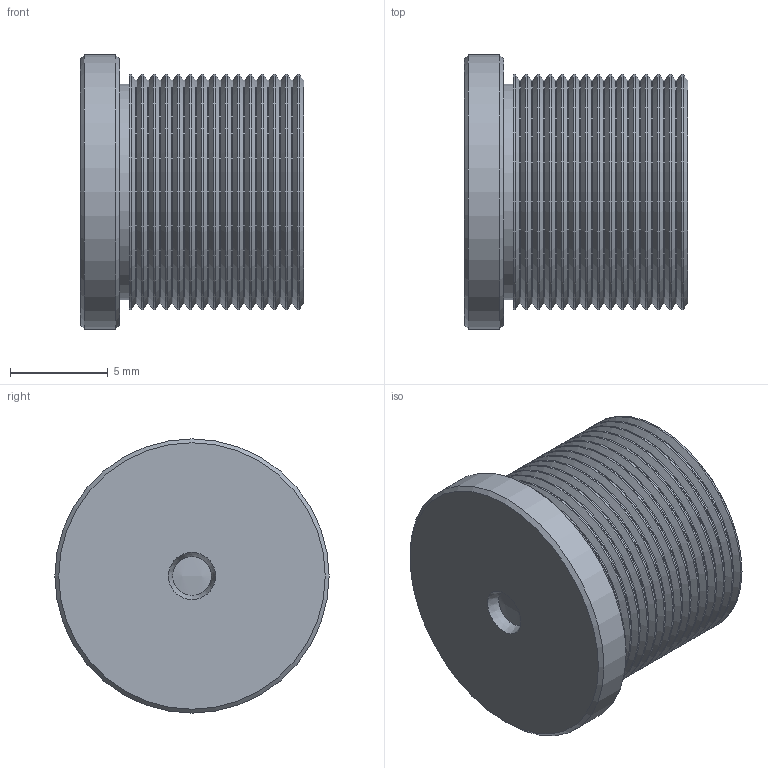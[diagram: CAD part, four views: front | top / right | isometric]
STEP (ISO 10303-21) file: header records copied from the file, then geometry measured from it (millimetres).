
FILE_DESCRIPTION (( 'STEP AP214' ), '1' );
FILE_NAME ('AD2121C.STEP', '2025-08-20T09:21:05', ( '' ), ( '' ), 'SwSTEP 2.0', 'SolidWorks 2023', '' );
FILE_SCHEMA (( 'AUTOMOTIVE_DESIGN' ));
Length unit declared in the file: millimetre
Products named in the file (1): AD2121C
Bounding box: 11.39 x 14 x 14 mm (x, y, z)
Volume: 1309.2 mm3; surface area: 917.5 mm2
Topology: 1 solids, 1 shells, 68 faces, 130 edges, 67 vertices
Faces by surface type: cone 32, cylinder 31, plane 4, sphere 1
Full cylindrical faces by diameter (mm): 11 x1, 11.4 x14, 12 x15, 14 x1
Entity records: 1377 total; most frequent: DIRECTION 272, CARTESIAN_POINT 203, AXIS2_PLACEMENT_3D 136, EDGE_LOOP 134, ORIENTED_EDGE 134, FACE_OUTER_BOUND 99, ADVANCED_FACE 68, EDGE_CURVE 67
